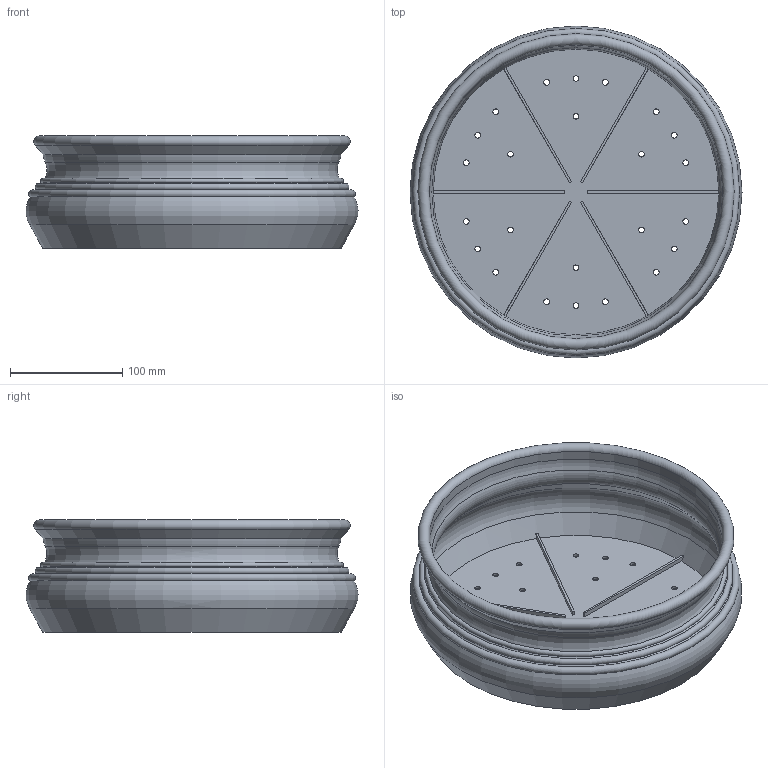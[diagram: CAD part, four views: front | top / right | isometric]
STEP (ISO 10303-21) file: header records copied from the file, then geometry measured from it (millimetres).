
FILE_DESCRIPTION(/* description */ (''),/* implementation_level */ '2;1');
FILE_NAME(/* name */ 'LR2406-S20-H100-D300_step.step',/* time_stamp */ '2024-02-01T11:01:14+01:00',/* author */ (''),/* organization */ (''),/* preprocessor_version */ 'ST-DEVELOPER v20',/* originating_system */ 'Autodesk Translation Framework v12.20.1.177',/* authorisation */ '');
FILE_SCHEMA (('AUTOMOTIVE_DESIGN { 1 0 10303 214 3 1 1 }'));
Length unit declared in the file: millimetre
Products named in the file (1): LR2406-S20-H100-D300
Bounding box: 296 x 296 x 100 mm (x, y, z)
Volume: 408546.5 mm3; surface area: 318052.4 mm2
Topology: 1 solids, 1 shells, 67 faces, 179 edges, 114 vertices
Faces by surface type: cylinder 31, plane 20, torus 10, cone 6
Full cylindrical faces by diameter (mm): 5 x24, 262 x1
Entity records: 2261 total; most frequent: DIRECTION 415, CARTESIAN_POINT 361, ORIENTED_EDGE 358, EDGE_CURVE 179, AXIS2_PLACEMENT_3D 168, EDGE_LOOP 115, VERTEX_POINT 114, CIRCLE 100
